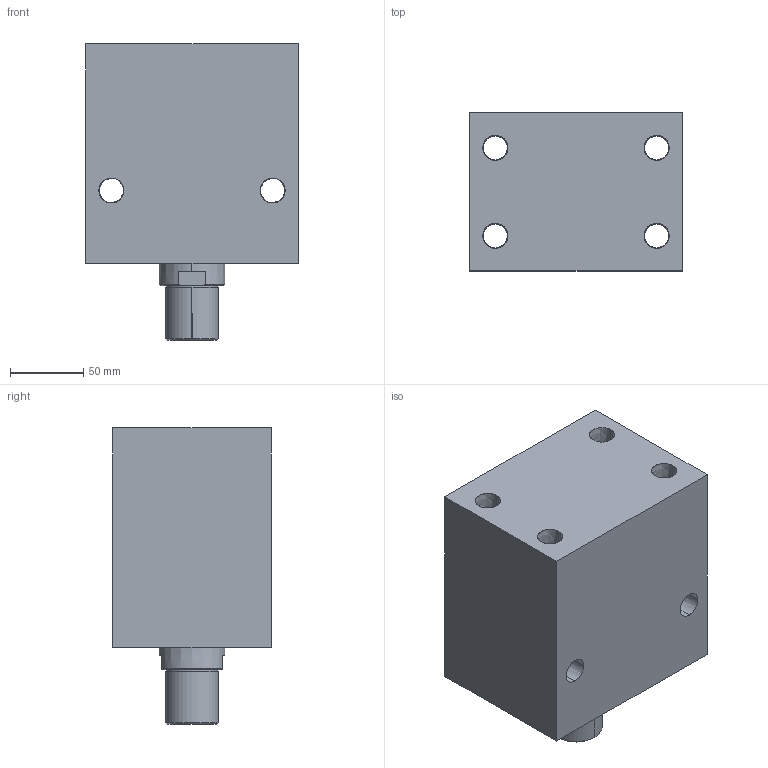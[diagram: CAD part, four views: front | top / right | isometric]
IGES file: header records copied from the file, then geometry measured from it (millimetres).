
Start section: SolidWorks IGES file using analytic representation for surfaces
Global section: file name: D:\karuppas\Clasp\3D model\Block cylinder B01C-Male thread - Copy\B01C-775M\Block cylinder B01C-775M.IGS; native system: SolidWorks 2017; preprocessor: SolidWorks 2017; author: pc; date: 220709.234740; units: millimetre
Bounding box: 145 x 108 x 202 mm (x, y, z)
Surface area: 178071.6 mm2 (no closed solid volume)
Topology: 0 solids, 0 shells, 344 faces, 5109 edges, 5105 vertices
Faces by surface type: bspline 290, revolution 54
